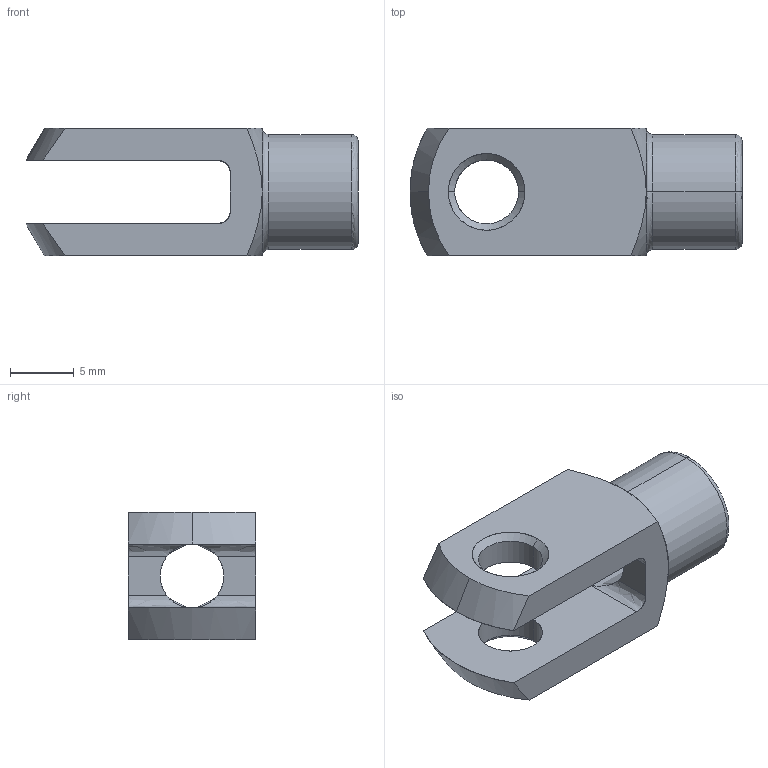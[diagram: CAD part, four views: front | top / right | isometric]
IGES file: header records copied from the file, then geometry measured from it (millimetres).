
Start section: SolidWorks IGES file using analytic representation for surfaces
Global section: file name: C:\Documents and Settings\IANO\My Documents\Wix and Auto CAD Work\CAD Models\Parametric Models\Wix Models\60000\65635_v2\65635_v2_IGES\65635.W0051.igs; native system: SolidWorks 2009; preprocessor: SolidWorks 2009; author: IANO; date: 140117.130348; units: millimetre
Bounding box: 26 x 10 x 10 mm (x, y, z)
Surface area: 1327.6 mm2 (no closed solid volume)
Topology: 0 solids, 0 shells, 38 faces, 518 edges, 518 vertices
Faces by surface type: revolution 25, bspline 13
